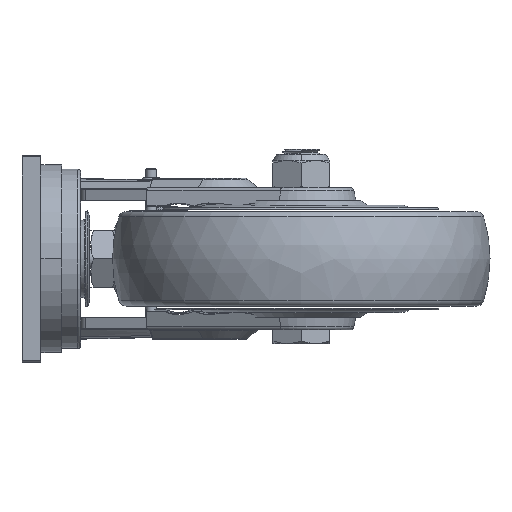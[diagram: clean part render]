
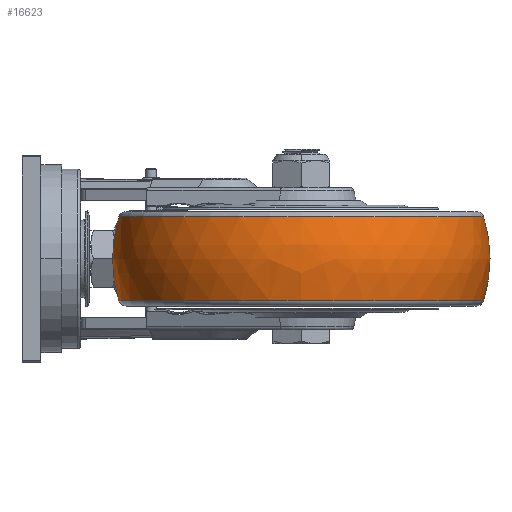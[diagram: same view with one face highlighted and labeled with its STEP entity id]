
A CAD part, left-side view. The second image highlights one B-rep face of the part: STEP entity #16623.
In plain terms, the highlighted free-form (B-spline) face has degree [3, 3] with [7, 4] control points.
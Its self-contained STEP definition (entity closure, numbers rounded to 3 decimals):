
#16364=CARTESIAN_POINT('',(-62.,-114.,0.));
#16365=DIRECTION('',(1.,0.,0.));
#16366=DIRECTION('',(0.,0.957,-0.292));
#16367=AXIS2_PLACEMENT_3D('',#16364,#16365,#16366);
#16369=CARTESIAN_POINT('',(-62.,-162.,0.));
#16370=DIRECTION('',(-1.,0.,0.));
#16371=DIRECTION('',(0.,-0.957,-0.292));
#16372=AXIS2_PLACEMENT_3D('',#16369,#16370,#16371);
#16374=CARTESIAN_POINT('',(-62.,-138.,-22.167));
#16375=DIRECTION('',(0.,0.,1.));
#16376=DIRECTION('',(0.,1.,0.));
#16377=AXIS2_PLACEMENT_3D('',#16374,#16375,#16376);
#16399=CARTESIAN_POINT('',(-62.,-138.,22.167));
#16400=DIRECTION('',(0.,0.,1.));
#16401=DIRECTION('',(0.,1.,0.));
#16402=AXIS2_PLACEMENT_3D('',#16399,#16400,#16401);
#16449=CARTESIAN_POINT('',(-62.,-41.304,-22.167));
#16451=VERTEX_POINT('',#16449);
#16452=CARTESIAN_POINT('',(-62.,-41.304,22.167));
#16453=VERTEX_POINT('',#16452);
#16465=CARTESIAN_POINT('',(-62.,-234.696,-22.167));
#16467=VERTEX_POINT('',#16465);
#16468=CARTESIAN_POINT('',(-62.,-234.696,22.167));
#16469=VERTEX_POINT('',#16468);
#16585=CARTESIAN_POINT('',(-55.945,-234.238,
23.026));
#16586=CARTESIAN_POINT('',(-55.644,-239.029,
7.924));
#16587=CARTESIAN_POINT('',(-55.644,-239.029,
-7.924));
#16588=CARTESIAN_POINT('',(-55.945,-234.238,
-23.026));
#16589=CARTESIAN_POINT('',(-115.17,-237.964,
23.026));
#16590=CARTESIAN_POINT('',(-117.817,-242.941,
7.924));
#16591=CARTESIAN_POINT('',(-117.817,-242.941,
-7.924));
#16592=CARTESIAN_POINT('',(-115.17,-237.964,
-23.026));
#16593=CARTESIAN_POINT('',(-158.428,-197.342,
23.026));
#16594=CARTESIAN_POINT('',(-163.229,-200.296,
7.924));
#16595=CARTESIAN_POINT('',(-163.229,-200.296,
-7.924));
#16596=CARTESIAN_POINT('',(-158.428,-197.342,
-23.026));
#16597=CARTESIAN_POINT('',(-158.428,-138.,23.026));
#16598=CARTESIAN_POINT('',(-163.229,-138.,7.924));
#16599=CARTESIAN_POINT('',(-163.229,-138.,-7.924));
#16600=CARTESIAN_POINT('',(-158.428,-138.,-23.026));
#16601=CARTESIAN_POINT('',(-158.428,-78.658,
23.026));
#16602=CARTESIAN_POINT('',(-163.229,-75.704,
7.924));
#16603=CARTESIAN_POINT('',(-163.229,-75.704,
-7.924));
#16604=CARTESIAN_POINT('',(-158.428,-78.658,
-23.026));
#16605=CARTESIAN_POINT('',(-115.17,-38.036,
23.026));
#16606=CARTESIAN_POINT('',(-117.817,-33.059,
7.924));
#16607=CARTESIAN_POINT('',(-117.817,-33.059,
-7.924));
#16608=CARTESIAN_POINT('',(-115.17,-38.036,
-23.026));
#16609=CARTESIAN_POINT('',(-55.945,-41.762,
23.026));
#16610=CARTESIAN_POINT('',(-55.644,-36.971,
7.924));
#16611=CARTESIAN_POINT('',(-55.644,-36.971,
-7.924));
#16612=CARTESIAN_POINT('',(-55.945,-41.762,
-23.026));
#16613=(BOUNDED_SURFACE()B_SPLINE_SURFACE(3,3,((#16585,#16586,#16587,#16588),(
#16589,#16590,#16591,#16592),(#16593,#16594,#16595,#16596),(#16597,#16598,
#16599,#16600),(#16601,#16602,#16603,#16604),(#16605,#16606,#16607,#16608),(
#16609,#16610,#16611,#16612)),.UNSPECIFIED.,.F.,.F.,.F.)B_SPLINE_SURFACE_WITH_KNOTS((4,3,4),(4,4),(0.,1.,2.),(0.,1.),.UNSPECIFIED.)GEOMETRIC_REPRESENTATION_ITEM()RATIONAL_B_SPLINE_SURFACE(((1.216,1.178,
1.178,1.216),(0.96,0.93,
0.93,0.96),(0.96,0.93,
0.93,0.96),(1.216,1.178,
1.178,1.216),(0.96,0.93,
0.93,0.96),(0.96,0.93,
0.93,0.96),(1.216,1.178,
1.178,1.216)))REPRESENTATION_ITEM('')SURFACE());
#16615=ORIENTED_EDGE('',*,*,#16614,.T.);
#16617=ORIENTED_EDGE('',*,*,#16616,.T.);
#16619=ORIENTED_EDGE('',*,*,#16618,.F.);
#16620=ORIENTED_EDGE('',*,*,#16571,.F.);
#16621=EDGE_LOOP('',(#16615,#16617,#16619,#16620));
#16622=FACE_OUTER_BOUND('',#16621,.F.);
#16368=CIRCLE('',#16367,76.);
#16373=CIRCLE('',#16372,76.);
#16378=CIRCLE('',#16377,96.696);
#16403=CIRCLE('',#16402,96.696);
#16571=EDGE_CURVE('',#16451,#16467,#16378,.T.);
#16614=EDGE_CURVE('',#16451,#16453,#16368,.T.);
#16616=EDGE_CURVE('',#16453,#16469,#16403,.T.);
#16618=EDGE_CURVE('',#16467,#16469,#16373,.T.);
#16623=ADVANCED_FACE('',(#16622),#16613,.T.);
